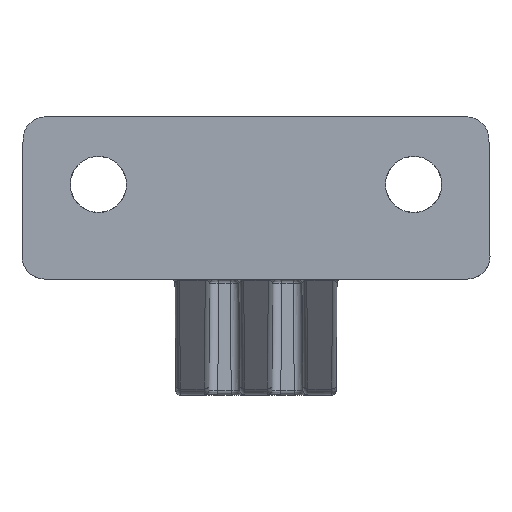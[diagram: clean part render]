
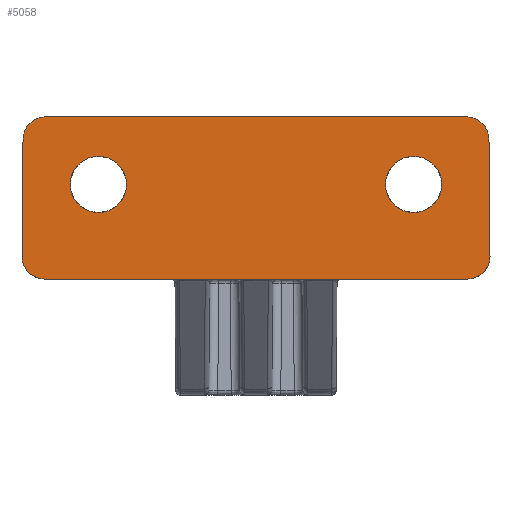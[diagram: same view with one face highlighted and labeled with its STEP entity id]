
A CAD part, front view. The second image highlights one B-rep face of the part: STEP entity #5058.
In plain terms, the highlighted planar face has unit normal (0, -1, 0).
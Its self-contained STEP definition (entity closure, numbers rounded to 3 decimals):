
#9 = LINE ( 'NONE', #1262, #74 ) ;
#74 = VECTOR ( 'NONE', #5009, 1000. ) ;
#104 = CIRCLE ( 'NONE', #1084, 3.125 ) ;
#116 = CARTESIAN_POINT ( 'NONE',  ( 17.5, 0., 4.625 ) ) ;
#250 = CARTESIAN_POINT ( 'NONE',  ( -25.865, 0., 6.522 ) ) ;
#273 = AXIS2_PLACEMENT_3D ( 'NONE', #3321, #4244, #408 ) ;
#334 = ORIENTED_EDGE ( 'NONE', *, *, #4374, .F. ) ;
#402 = AXIS2_PLACEMENT_3D ( 'NONE', #4395, #5455, #4429 ) ;
#408 = DIRECTION ( 'NONE',  ( 0., 0., 1. ) ) ;
#499 = DIRECTION ( 'NONE',  ( 0., 0., 1. ) ) ;
#691 = CARTESIAN_POINT ( 'NONE',  ( -25.978, 0., -6.478 ) ) ;
#692 = ORIENTED_EDGE ( 'NONE', *, *, #2156, .T. ) ;
#699 = CARTESIAN_POINT ( 'NONE',  ( -26., 0., -9. ) ) ;
#763 = DIRECTION ( 'NONE',  ( 0., 0., 1. ) ) ;
#778 = EDGE_CURVE ( 'NONE', #2480, #1411, #1104, .T. ) ;
#786 = DIRECTION ( 'NONE',  ( 0., 1., 0. ) ) ;
#895 = EDGE_CURVE ( 'NONE', #4098, #1411, #3795, .T. ) ;
#994 = CARTESIAN_POINT ( 'NONE',  ( -23.478, 0., -6.5 ) ) ;
#1008 = CARTESIAN_POINT ( 'NONE',  ( 23.365, 0., 9. ) ) ;
#1063 = CARTESIAN_POINT ( 'NONE',  ( 23.478, 0., -9. ) ) ;
#1074 = CIRCLE ( 'NONE', #2739, 2.5 ) ;
#1084 = AXIS2_PLACEMENT_3D ( 'NONE', #2603, #5862, #2575 ) ;
#1104 = LINE ( 'NONE', #3033, #2909 ) ;
#1210 = EDGE_CURVE ( 'NONE', #3966, #5627, #9, .T. ) ;
#1245 = CARTESIAN_POINT ( 'NONE',  ( -17.5, 0., -1.625 ) ) ;
#1262 = CARTESIAN_POINT ( 'NONE',  ( -26., 0., -9. ) ) ;
#1296 = AXIS2_PLACEMENT_3D ( 'NONE', #5831, #3494, #3555 ) ;
#1315 = EDGE_CURVE ( 'NONE', #3428, #5622, #3407, .T. ) ;
#1388 = EDGE_CURVE ( 'NONE', #4098, #3533, #1880, .T. ) ;
#1411 = VERTEX_POINT ( 'NONE', #1008 ) ;
#1629 = DIRECTION ( 'NONE',  ( 0., -1., 0. ) ) ;
#1714 = ORIENTED_EDGE ( 'NONE', *, *, #778, .F. ) ;
#1784 = DIRECTION ( 'NONE',  ( 0., 1., 0. ) ) ;
#1880 = LINE ( 'NONE', #3745, #5761 ) ;
#1975 = CIRCLE ( 'NONE', #2749, 2.5 ) ;
#2048 = AXIS2_PLACEMENT_3D ( 'NONE', #3282, #2374, #3312 ) ;
#2156 = EDGE_CURVE ( 'NONE', #3966, #4623, #1074, .T. ) ;
#2160 = ORIENTED_EDGE ( 'NONE', *, *, #5283, .T. ) ;
#2208 = CARTESIAN_POINT ( 'NONE',  ( 25.865, 0., 6.522 ) ) ;
#2374 = DIRECTION ( 'NONE',  ( 0., 1., 0. ) ) ;
#2388 = DIRECTION ( 'NONE',  ( 0., -1., 0. ) ) ;
#2480 = VERTEX_POINT ( 'NONE', #5426 ) ;
#2542 = CARTESIAN_POINT ( 'NONE',  ( -23.365, 0., 6.5 ) ) ;
#2575 = DIRECTION ( 'NONE',  ( 0., 0., 1. ) ) ;
#2579 = DIRECTION ( 'NONE',  ( 1., 0., 0. ) ) ;
#2584 = VERTEX_POINT ( 'NONE', #4765 ) ;
#2590 = FACE_OUTER_BOUND ( 'NONE', #5969, .T. ) ;
#2603 = CARTESIAN_POINT ( 'NONE',  ( -17.5, 0., 1.5 ) ) ;
#2635 = CARTESIAN_POINT ( 'NONE',  ( 17.5, 0., 1.5 ) ) ;
#2664 = AXIS2_PLACEMENT_3D ( 'NONE', #2635, #1784, #763 ) ;
#2692 = DIRECTION ( 'NONE',  ( 0., 0., 1. ) ) ;
#2693 = LINE ( 'NONE', #699, #5211 ) ;
#2739 = AXIS2_PLACEMENT_3D ( 'NONE', #994, #2388, #499 ) ;
#2749 = AXIS2_PLACEMENT_3D ( 'NONE', #2542, #1629, #4815 ) ;
#2824 = DIRECTION ( 'NONE',  ( 0.009, 0., -1. ) ) ;
#2909 = VECTOR ( 'NONE', #2579, 1000. ) ;
#3007 = ORIENTED_EDGE ( 'NONE', *, *, #5786, .T. ) ;
#3033 = CARTESIAN_POINT ( 'NONE',  ( -26., 0., 9. ) ) ;
#3047 = FACE_BOUND ( 'NONE', #4661, .T. ) ;
#3174 = ORIENTED_EDGE ( 'NONE', *, *, #3593, .T. ) ;
#3176 = EDGE_CURVE ( 'NONE', #2584, #3962, #3627, .T. ) ;
#3282 = CARTESIAN_POINT ( 'NONE',  ( -17.5, 0., 1.5 ) ) ;
#3294 = CARTESIAN_POINT ( 'NONE',  ( 25.978, 0., -6.478 ) ) ;
#3312 = DIRECTION ( 'NONE',  ( 0., 0., 1. ) ) ;
#3321 = CARTESIAN_POINT ( 'NONE',  ( 23.365, 0., 6.5 ) ) ;
#3382 = EDGE_LOOP ( 'NONE', ( #2160, #5133 ) ) ;
#3407 = CIRCLE ( 'NONE', #2048, 3.125 ) ;
#3428 = VERTEX_POINT ( 'NONE', #1245 ) ;
#3472 = CARTESIAN_POINT ( 'NONE',  ( -17.5, 0., 4.625 ) ) ;
#3494 = DIRECTION ( 'NONE',  ( 0., -1., 0. ) ) ;
#3533 = VERTEX_POINT ( 'NONE', #3294 ) ;
#3555 = DIRECTION ( 'NONE',  ( 0., 0., 1. ) ) ;
#3572 = PLANE ( 'NONE',  #402 ) ;
#3593 = EDGE_CURVE ( 'NONE', #5622, #3428, #104, .T. ) ;
#3627 = CIRCLE ( 'NONE', #5692, 3.125 ) ;
#3745 = CARTESIAN_POINT ( 'NONE',  ( 26., 0., -9. ) ) ;
#3795 = CIRCLE ( 'NONE', #273, 2.5 ) ;
#3902 = EDGE_CURVE ( 'NONE', #2480, #5627, #1975, .T. ) ;
#3924 = ORIENTED_EDGE ( 'NONE', *, *, #1388, .F. ) ;
#3934 = VERTEX_POINT ( 'NONE', #1063 ) ;
#3941 = CIRCLE ( 'NONE', #1296, 2.5 ) ;
#3962 = VERTEX_POINT ( 'NONE', #116 ) ;
#3966 = VERTEX_POINT ( 'NONE', #691 ) ;
#3987 = DIRECTION ( 'NONE',  ( -1., 0., 0. ) ) ;
#4031 = FACE_BOUND ( 'NONE', #3382, .T. ) ;
#4098 = VERTEX_POINT ( 'NONE', #2208 ) ;
#4244 = DIRECTION ( 'NONE',  ( 0., -1., 0. ) ) ;
#4374 = EDGE_CURVE ( 'NONE', #3934, #4623, #2693, .T. ) ;
#4395 = CARTESIAN_POINT ( 'NONE',  ( 0., 0., 0. ) ) ;
#4429 = DIRECTION ( 'NONE',  ( 0., 0., 1. ) ) ;
#4532 = ORIENTED_EDGE ( 'NONE', *, *, #1210, .F. ) ;
#4623 = VERTEX_POINT ( 'NONE', #5690 ) ;
#4661 = EDGE_LOOP ( 'NONE', ( #3174, #5812 ) ) ;
#4763 = ORIENTED_EDGE ( 'NONE', *, *, #3902, .T. ) ;
#4765 = CARTESIAN_POINT ( 'NONE',  ( 17.5, 0., -1.625 ) ) ;
#4815 = DIRECTION ( 'NONE',  ( 0., 0., 1. ) ) ;
#5009 = DIRECTION ( 'NONE',  ( 0.009, 0., 1. ) ) ;
#5057 = ORIENTED_EDGE ( 'NONE', *, *, #895, .T. ) ;
#5058 = ADVANCED_FACE ( 'NONE', ( #3047, #4031, #2590 ), #3572, .F. ) ;
#5133 = ORIENTED_EDGE ( 'NONE', *, *, #3176, .T. ) ;
#5211 = VECTOR ( 'NONE', #3987, 1000. ) ;
#5283 = EDGE_CURVE ( 'NONE', #3962, #2584, #5612, .T. ) ;
#5426 = CARTESIAN_POINT ( 'NONE',  ( -23.365, 0., 9. ) ) ;
#5455 = DIRECTION ( 'NONE',  ( 0., 1., 0. ) ) ;
#5612 = CIRCLE ( 'NONE', #2664, 3.125 ) ;
#5622 = VERTEX_POINT ( 'NONE', #3472 ) ;
#5627 = VERTEX_POINT ( 'NONE', #250 ) ;
#5690 = CARTESIAN_POINT ( 'NONE',  ( -23.478, 0., -9. ) ) ;
#5692 = AXIS2_PLACEMENT_3D ( 'NONE', #5864, #786, #2692 ) ;
#5761 = VECTOR ( 'NONE', #2824, 1000. ) ;
#5786 = EDGE_CURVE ( 'NONE', #3934, #3533, #3941, .T. ) ;
#5812 = ORIENTED_EDGE ( 'NONE', *, *, #1315, .T. ) ;
#5831 = CARTESIAN_POINT ( 'NONE',  ( 23.478, 0., -6.5 ) ) ;
#5862 = DIRECTION ( 'NONE',  ( 0., 1., 0. ) ) ;
#5864 = CARTESIAN_POINT ( 'NONE',  ( 17.5, 0., 1.5 ) ) ;
#5969 = EDGE_LOOP ( 'NONE', ( #334, #3007, #3924, #5057, #1714, #4763, #4532, #692 ) ) ;
